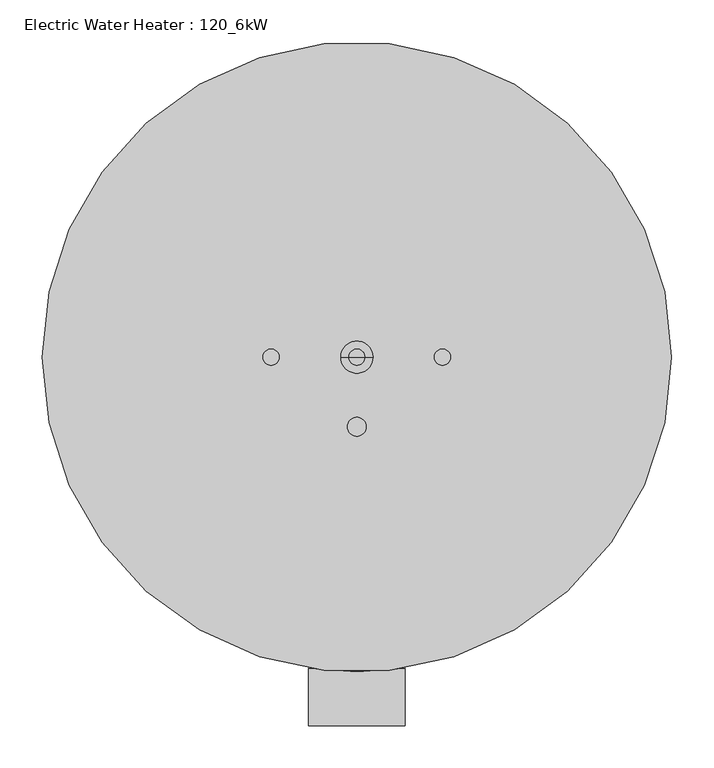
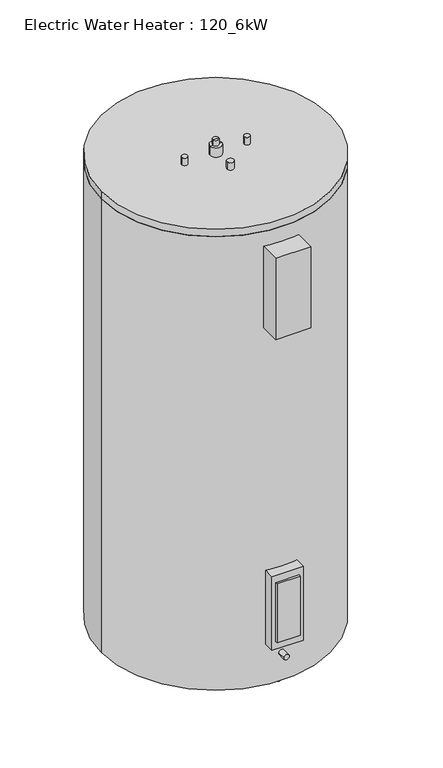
"""IFC4 building model written with IfcOpenShell, lengths in millimetres: proxy geometry, Electric Water Heater : 120_6kW."""

from ifc_helpers import new_model, si_unit, point, frame, frame_2d, origin, origin_with_axes, origin_2d, place, context, project, spatial, circle_curve, trimmed, segment, composite_curve, outline, extrude, source, transform, mapped, element, save
from ifc_brep_helpers import plane_surface, cylinder_surface, advanced_brep


def electric_water_heater_120_6kw_433a285c(model_context):
    return source(origin(), model_context, "Body", "SolidModel", [
        extrude(outline(composite_curve([segment(trimmed(circle_curve(frame_2d((107.95, 0.0)), 9.525), [point((107.95, -9.525))], [point((107.95, 9.525))], False, "CARTESIAN"), True, "CONTINUOUS"), segment(trimmed(circle_curve(frame_2d((107.95, 0.0)), 9.525), [point((107.95, 9.525))], [point((107.95, -9.525))], False, "CARTESIAN"), True, "CONTINUOUS")], self_intersect=False)), frame((0.0, -398.4625, 0.0), z_axis=(0.0, 1.0, 0.0), x_axis=(0.0, 0.0, 1.0)), (0.0, 0.0, 1.0), 28.575),
        advanced_brep(
        [(-57.15, -436.5625, 1522.4125), (57.15, -436.5625, 1522.4125), (57.15, -368.6590653, 1522.4125), (-57.15, -368.6590653, 1522.4125), (57.15, -436.5625, 1243.0125), (-57.15, -436.5625, 1243.0125), (-57.15, -368.6590653, 1243.0125), (57.15, -368.6590653, 1243.0125), (-50.8, -404.8125, 406.4), (50.8, -404.8125, 406.4), (50.8, -369.587593, 406.4), (-50.8, -369.587593, 406.4), (50.8, -404.8125, 152.4), (-50.8, -404.8125, 152.4), (-50.8, -369.587593, 152.4), (50.8, -369.587593, 152.4), (-38.1, -404.8125, 381.0), (38.1, -404.8125, 381.0), (38.1, -404.8125, 177.8), (-38.1, -404.8125, 177.8), (-38.1, -411.1625, 177.8), (-38.1, -411.1625, 381.0), (38.1, -411.1625, 177.8), (38.1, -411.1625, 381.0), (-373.0625, 0.0, 12.7), (373.0625, 0.0, 12.7), (-373.0625, 0.0, 1573.2125), (373.0625, 0.0, 1573.2125)],
        [
            (0, 1),
            (1, 2),
            (2, 3, circle_curve(frame((0.0, 0.0, 1522.4125), z_axis=(0.0, 0.0, -1.0), x_axis=(1.0, 0.0, 0.0)), 373.0625)),
            (3, 0),
            (4, 5),
            (5, 6),
            (6, 7, circle_curve(frame((0.0, 0.0, 1243.0125), z_axis=(0.0, 0.0, 1.0), x_axis=(1.0, 0.0, 0.0)), 373.0625)),
            (7, 4),
            (5, 0),
            (3, 6),
            (4, 1),
            (7, 2),
            (8, 9),
            (9, 10),
            (10, 11, circle_curve(frame((0.0, 0.0, 406.4), z_axis=(0.0, 0.0, -1.0), x_axis=(1.0, 0.0, 0.0)), 373.0625)),
            (11, 8),
            (12, 13),
            (13, 14),
            (14, 15, circle_curve(frame((0.0, 0.0, 152.4), z_axis=(0.0, 0.0, 1.0), x_axis=(1.0, 0.0, 0.0)), 373.0625)),
            (15, 12),
            (13, 8),
            (11, 14),
            (12, 9),
            (16, 17),
            (17, 18),
            (18, 19),
            (19, 16),
            (19, 20),
            (20, 21),
            (21, 16),
            (20, 22),
            (22, 23),
            (23, 21),
            (22, 18),
            (17, 23),
            (15, 10),
            (24, 25, circle_curve(frame((0.0, 0.0, 12.7), z_axis=(0.0, 0.0, -1.0), x_axis=(1.0, 0.0, 0.0)), 373.0625)),
            (25, 24, circle_curve(frame((0.0, 0.0, 12.7), z_axis=(0.0, 0.0, -1.0), x_axis=(1.0, 0.0, 0.0)), 373.0625)),
            (26, 27, circle_curve(frame((0.0, 0.0, 1573.2125), z_axis=(0.0, 0.0, 1.0), x_axis=(1.0, 0.0, 0.0)), 373.0625)),
            (27, 26, circle_curve(frame((0.0, 0.0, 1573.2125), z_axis=(0.0, 0.0, 1.0), x_axis=(1.0, 0.0, 0.0)), 373.0625)),
            (24, 26),
            (27, 25),
        ],
        [
            plane_surface(frame((-57.15, -322.2625, 1522.4125), z_axis=(0.0, 0.0, 1.0), x_axis=(-1.0, 0.0, 0.0))),
            plane_surface(frame((-57.15, -322.2625, 1243.0125), z_axis=(0.0, 0.0, -1.0), x_axis=(1.0, 0.0, 0.0))),
            plane_surface(frame((-57.15, -322.2625, 1522.4125), z_axis=(-1.0, 0.0, 0.0), x_axis=(0.0, 0.0, -1.0))),
            plane_surface(frame((-57.15, -436.5625, 1522.4125), z_axis=(0.0, -1.0, 0.0), x_axis=(0.0, 0.0, -1.0))),
            plane_surface(frame((57.15, -436.5625, 1522.4125), z_axis=(1.0, 0.0, 0.0), x_axis=(0.0, 0.0, -1.0))),
            plane_surface(frame((-50.8, -322.2625, 406.4), z_axis=(0.0, 0.0, 1.0), x_axis=(-1.0, 0.0, 0.0))),
            plane_surface(frame((-50.8, -322.2625, 152.4), z_axis=(0.0, 0.0, -1.0), x_axis=(1.0, 0.0, 0.0))),
            plane_surface(frame((-50.8, -322.2625, 406.4), z_axis=(-1.0, 0.0, 0.0), x_axis=(0.0, 0.0, -1.0))),
            plane_surface(frame((-50.8, -404.8125, 406.4), z_axis=(0.0, -1.0, 0.0), x_axis=(0.0, 0.0, -1.0))),
            plane_surface(frame((-38.1, -404.8125, 406.4), z_axis=(-1.0, 0.0, 0.0), x_axis=(0.0, 0.0, -1.0))),
            plane_surface(frame((-38.1, -411.1625, 406.4), z_axis=(0.0, -1.0, 0.0), x_axis=(0.0, 0.0, -1.0))),
            plane_surface(frame((38.1, -411.1625, 406.4), z_axis=(1.0, 0.0, 0.0), x_axis=(0.0, 0.0, -1.0))),
            plane_surface(frame((50.8, -404.8125, 406.4), z_axis=(1.0, 0.0, 0.0), x_axis=(0.0, 0.0, -1.0))),
            plane_surface(frame((38.1, -404.8125, 381.0), z_axis=(0.0, 0.0, 1.0), x_axis=(0.0, -1.0, 0.0))),
            plane_surface(frame((-38.1, -404.8125, 177.8), z_axis=(0.0, 0.0, -1.0), x_axis=(0.0, -1.0, 0.0))),
            plane_surface(frame((373.0625, 0.0, 12.7), z_axis=(0.0, 0.0, -1.0), x_axis=(0.0, -1.0, 0.0))),
            plane_surface(frame((373.0625, 0.0, 1573.2125), z_axis=(0.0, 0.0, 1.0), x_axis=(0.0, 1.0, 0.0))),
            cylinder_surface(frame((0.0, 0.0, 1573.2125), z_axis=(0.0, 0.0, -1.0), x_axis=(1.0, 0.0, 0.0)), 373.0625),
        ],
        [
            (0, [[1, 2, 3, 4]]),
            (1, [[5, 6, 7, 8]]),
            (2, [[9, -4, 10, -6]]),
            (3, [[-1, -9, -5, 11]]),
            (4, [[-11, -8, 12, -2]]),
            (5, [[13, 14, 15, 16]]),
            (6, [[17, 18, 19, 20]]),
            (7, [[21, -16, 22, -18]]),
            (8, [[-21, -17, 23, -13], [24, 25, 26, 27]]),
            (9, [[-27, 28, 29, 30]]),
            (10, [[-29, 31, 32, 33]]),
            (11, [[-32, 34, -25, 35]]),
            (12, [[-23, -20, 36, -14]]),
            (13, [[-24, -30, -33, -35]]),
            (14, [[-26, -34, -31, -28]]),
            (15, [[37, 38]]),
            (16, [[39, 40]]),
            (17, [[-37, 41, -40, 42]]),
            (17, [[-38, -42, -39, -41], [-3, -12, -7, -10], [-15, -36, -19, -22]]),
        ],
    ),
        extrude(outline(composite_curve([segment(trimmed(circle_curve(frame_2d((101.6, 0.0)), 9.525), [point((92.075, 0.0))], [point((111.125, 0.0))], False, "CARTESIAN"), True, "CONTINUOUS"), segment(trimmed(circle_curve(frame_2d((101.6, 0.0)), 9.525), [point((111.125, 0.0))], [point((92.075, 0.0))], False, "CARTESIAN"), True, "CONTINUOUS")], self_intersect=False)), frame((0.0, 0.0, 1598.6125), z_axis=(0.0, 0.0, 1.0), x_axis=(1.0, 0.0, 0.0)), (0.0, 0.0, 1.0), 25.4),
        extrude(outline(composite_curve([segment(trimmed(circle_curve(frame_2d((-101.6, 0.0)), 9.525), [point((-111.125, 0.0))], [point((-92.075, 0.0))], False, "CARTESIAN"), True, "CONTINUOUS"), segment(trimmed(circle_curve(frame_2d((-101.6, 0.0)), 9.525), [point((-92.075, 0.0))], [point((-111.125, 0.0))], False, "CARTESIAN"), True, "CONTINUOUS")], self_intersect=False)), frame((0.0, 0.0, 1598.6125), z_axis=(0.0, 0.0, 1.0), x_axis=(1.0, 0.0, 0.0)), (0.0, 0.0, 1.0), 25.4),
        extrude(outline(composite_curve([segment(trimmed(circle_curve(frame_2d((347.6625, 0.0)), 9.525), [point((338.1375, 0.0))], [point((357.1875, 0.0))], False, "CARTESIAN"), True, "CONTINUOUS"), segment(trimmed(circle_curve(frame_2d((347.6625, 0.0)), 9.525), [point((357.1875, 0.0))], [point((338.1375, 0.0))], False, "CARTESIAN"), True, "CONTINUOUS")], self_intersect=False)), origin_with_axes(), (0.0, 0.0, 1.0), 12.7),
        extrude(outline(composite_curve([segment(trimmed(circle_curve(frame_2d((-347.6625, 0.0)), 9.525), [point((-357.1875, 0.0))], [point((-338.1375, 0.0))], False, "CARTESIAN"), True, "CONTINUOUS"), segment(trimmed(circle_curve(frame_2d((-347.6625, 0.0)), 9.525), [point((-338.1375, 0.0))], [point((-357.1875, 0.0))], False, "CARTESIAN"), True, "CONTINUOUS")], self_intersect=False)), origin_with_axes(), (0.0, 0.0, 1.0), 12.7),
        extrude(outline(composite_curve([segment(trimmed(circle_curve(frame_2d((0.0, -347.6625)), 9.525), [point((-9.525, -347.6625))], [point((9.525, -347.6625))], False, "CARTESIAN"), True, "CONTINUOUS"), segment(trimmed(circle_curve(frame_2d((0.0, -347.6625)), 9.525), [point((9.525, -347.6625))], [point((-9.525, -347.6625))], False, "CARTESIAN"), True, "CONTINUOUS")], self_intersect=False)), origin_with_axes(), (0.0, 0.0, 1.0), 12.7),
        extrude(outline(composite_curve([segment(trimmed(circle_curve(frame_2d((0.0, 347.6625)), 9.525), [point((-9.525, 347.6625))], [point((9.525, 347.6625))], False, "CARTESIAN"), True, "CONTINUOUS"), segment(trimmed(circle_curve(frame_2d((0.0, 347.6625)), 9.525), [point((9.525, 347.6625))], [point((-9.525, 347.6625))], False, "CARTESIAN"), True, "CONTINUOUS")], self_intersect=False)), origin_with_axes(), (0.0, 0.0, 1.0), 12.7),
        extrude(outline(composite_curve([segment(trimmed(circle_curve(frame_2d((0.0, -82.55)), 11.1125), [point((-11.1125, -82.55))], [point((11.1125, -82.55))], False, "CARTESIAN"), True, "CONTINUOUS"), segment(trimmed(circle_curve(frame_2d((0.0, -82.55)), 11.1125), [point((11.1125, -82.55))], [point((-11.1125, -82.55))], False, "CARTESIAN"), True, "CONTINUOUS")], self_intersect=False)), frame((0.0, 0.0, 1598.6125), z_axis=(0.0, 0.0, 1.0), x_axis=(1.0, 0.0, 0.0)), (0.0, 0.0, 1.0), 25.4),
        advanced_brep(
        [(0.0, 0.0, 1598.6125), (-19.05, 0.0, 1598.6125), (19.05, 0.0, 1598.6125), (9.5597986, 0.0, 1649.4125), (-9.5597986, 0.0, 1649.4125), (0.0, 0.0, 1649.4125), (9.5597986, 0.0, 1630.3625), (-9.5597986, 0.0, 1630.3625), (19.05, 0.0, 1630.3625), (-19.05, 0.0, 1630.3625)],
        [
            (0, 1),
            (1, 2, circle_curve(frame((0.0, 0.0, 1598.6125), z_axis=(0.0, 0.0, -1.0), x_axis=(-1.0, 0.0, 0.0)), 19.05)),
            (2, 0),
            (2, 1, circle_curve(frame((0.0, 0.0, 1598.6125), z_axis=(0.0, 0.0, -1.0), x_axis=(-1.0, 0.0, 0.0)), 19.05)),
            (3, 4, circle_curve(frame((0.0, 0.0, 1649.4125), z_axis=(0.0, 0.0, 1.0), x_axis=(-1.0, 0.0, 0.0)), 9.5597986)),
            (4, 5),
            (5, 3),
            (4, 3, circle_curve(frame((0.0, 0.0, 1649.4125), z_axis=(0.0, 0.0, 1.0), x_axis=(-1.0, 0.0, 0.0)), 9.5597986)),
            (6, 7, circle_curve(frame((0.0, 0.0, 1630.3625), z_axis=(0.0, 0.0, 1.0), x_axis=(-1.0, 0.0, 0.0)), 9.5597986)),
            (7, 4),
            (3, 6),
            (7, 6, circle_curve(frame((0.0, 0.0, 1630.3625), z_axis=(0.0, 0.0, 1.0), x_axis=(-1.0, 0.0, 0.0)), 9.5597986)),
            (8, 9, circle_curve(frame((0.0, 0.0, 1630.3625), z_axis=(0.0, 0.0, 1.0), x_axis=(-1.0, 0.0, 0.0)), 19.05)),
            (9, 7),
            (6, 8),
            (9, 8, circle_curve(frame((0.0, 0.0, 1630.3625), z_axis=(0.0, 0.0, 1.0), x_axis=(-1.0, 0.0, 0.0)), 19.05)),
            (1, 9),
            (8, 2),
        ],
        [
            plane_surface(frame((0.0, 0.0, 1598.6125), z_axis=(0.0, 0.0, -1.0), x_axis=(-1.0, 0.0, 0.0))),
            plane_surface(frame((0.0, 0.0, 1649.4125), z_axis=(0.0, 0.0, 1.0), x_axis=(-1.0, 0.0, 0.0))),
            cylinder_surface(frame((0.0, 0.0, 1681.1625), z_axis=(0.0, 0.0, -1.0), x_axis=(-1.0, 0.0, 0.0)), 9.5597986),
            plane_surface(frame((0.0, 0.0, 1630.3625), z_axis=(0.0, 0.0, 1.0), x_axis=(-1.0, 0.0, 0.0))),
            cylinder_surface(frame((0.0, 0.0, 1681.1625), z_axis=(0.0, 0.0, -1.0), x_axis=(-1.0, 0.0, 0.0)), 19.05),
        ],
        [
            (0, [[1, 2, 3]]),
            (0, [[-3, 4, -1]]),
            (1, [[5, 6, 7]]),
            (1, [[8, -7, -6]]),
            (2, [[9, 10, -5, 11]]),
            (2, [[12, -11, -8, -10]]),
            (3, [[13, 14, -9, 15]]),
            (3, [[16, -15, -12, -14]]),
            (4, [[-2, 17, -13, 18]]),
            (4, [[-4, -18, -16, -17]]),
        ],
    ),
        extrude(outline(composite_curve([segment(trimmed(circle_curve(origin_2d(), 373.0625), [point((-373.0625, 0.0))], [point((373.0625, 0.0))], False, "CARTESIAN"), True, "CONTINUOUS"), segment(trimmed(circle_curve(origin_2d(), 373.0625), [point((373.0625, 0.0))], [point((-373.0625, 0.0))], False, "CARTESIAN"), True, "CONTINUOUS")], self_intersect=False)), frame((0.0, 0.0, 1573.2125), z_axis=(0.0, 0.0, 1.0), x_axis=(1.0, 0.0, 0.0)), (0.0, 0.0, 1.0), 25.4),
    ])


if __name__ == "__main__":
    model = new_model("IFC4")
    model_context = context("Model", 3, world=origin())
    ifc_project = project(units=[si_unit("LENGTHUNIT", "METRE", prefix="MILLI")], contexts=[model_context])
    site = spatial("IfcSite", under=ifc_project)
    building = spatial("IfcBuilding", under=site)
    placement = place(None, origin())
    electric_water_heater_120_6kw_shape = electric_water_heater_120_6kw_433a285c(model_context)
    element("IfcBuildingElementProxy", 1, Name="Electric Water Heater : 120_6kW", ObjectType="Electric Water Heater : 120_6kW", at=placement, inside=building, context=model_context, shape_type="MappedRepresentation", body=[
        mapped(electric_water_heater_120_6kw_shape, transform((0.0, 0.0, 0.0), x_axis=(1.0, 0.0, 0.0), y_axis=(0.0, 1.0, 0.0), z_axis=(0.0, 0.0, 1.0))),
    ])
    save(model, "model.ifc")
